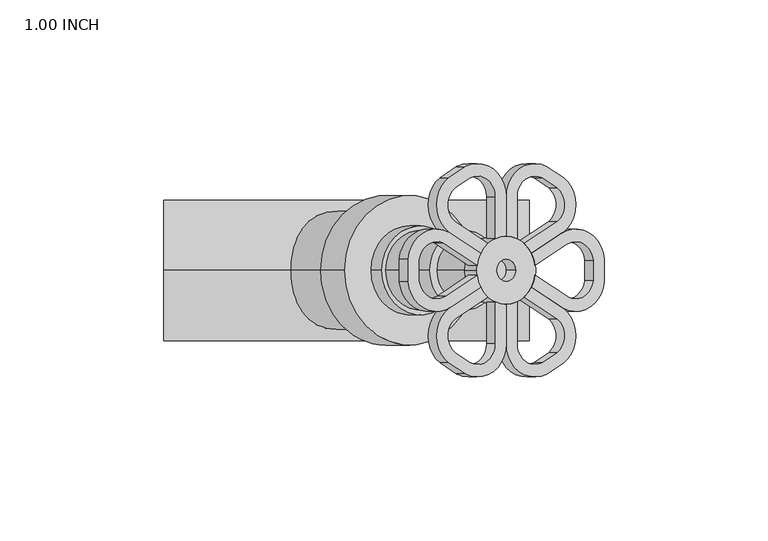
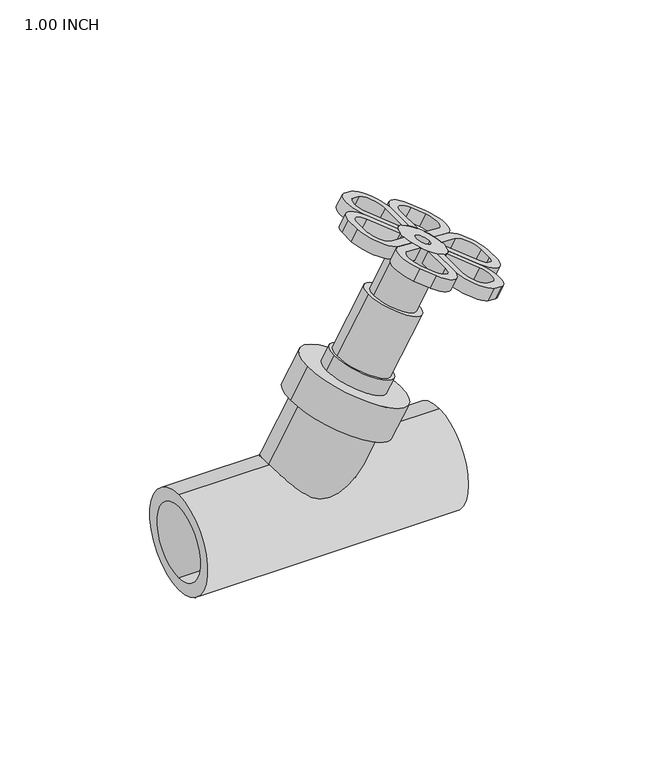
"""IFC4 building model written with IfcOpenShell, lengths in millimetres: valve geometry, Aquatherm - Inclined Valve without drain : 1.00 INCH."""

from ifc_helpers import new_model, si_unit, point, frame, frame_2d, origin, origin_2d, place, context, project, spatial, polyline, circle_curve, trimmed, segment, composite_curve, outline, extrude, source, transform, mapped, element, save
from ifc_brep_helpers import plane_surface, cylinder_surface, revolved_surface, advanced_brep


def valve_1_00_inch_de853e4a(model_context):
    return source(origin(), model_context, "Body", "SolidModel", [
        advanced_brep(
        [(123.3667275, 10.5951948, 86.0745316), (136.499744, 2.812243, 78.492181), (136.5198625, -4.0695455, 78.4805655), (124.1541595, -12.3087434, 85.6199075), (114.3647614, -5.7824779, 91.2718192), (115.4580816, -2.111949, 90.6405904), (125.6440611, -8.902602, 84.7597124), (133.2217492, -3.6900946, 80.3847322), (133.2377835, 2.4387005, 80.3754747), (125.0165059, 7.295638, 85.1220316), (115.4454846, 0.9149571, 90.6478633), (114.3371894, 4.5755028, 91.2877378), (126.0337275, 10.5951948, 90.6939111), (117.0041894, 4.5755028, 95.9071173), (118.1124846, 0.9149571, 95.2672428), (127.6835059, 7.295638, 89.7414111), (135.8832944, 2.4362397, 85.007261), (135.903563, -3.691799, 84.9955589), (128.3110611, -8.902602, 89.3790919), (118.1250816, -2.111949, 95.2599699), (117.0317614, -5.7824779, 95.8911987), (126.8211595, -12.3087434, 90.239287), (139.1720487, -4.0678412, 83.1084978), (139.1882331, 2.8147039, 83.0991537)],
        [
            (0, 1, circle_curve(frame((127.7586929, 1.8112639, 83.5388292), z_axis=(-0.49999999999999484, 0.0, -0.8660254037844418), x_axis=(0.4330127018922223, -0.866025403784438, -0.24999999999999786)), 10.1428098)),
            (1, 2, circle_curve(frame((106.5323937, -0.6194603, 95.7938387), z_axis=(-0.49999999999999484, 0.0, -0.8660254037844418), x_axis=(0.4330127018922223, -0.866025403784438, -0.24999999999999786)), 34.798)),
            (2, 3, circle_curve(frame((127.7643972, -3.0622214, 83.5355358), z_axis=(-0.49999999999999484, 0.0, -0.8660254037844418), x_axis=(0.4330127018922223, -0.866025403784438, -0.24999999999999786)), 10.1428098)),
            (3, 4),
            (4, 5, circle_curve(frame((106.5323937, -0.6194603, 95.7938387), z_axis=(0.49999999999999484, 0.0, 0.8660254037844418), x_axis=(0.41622412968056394, 0.8769321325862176, -0.2403071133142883)), 10.414)),
            (5, 6),
            (6, 7, circle_curve(frame((127.7643972, -3.0622214, 83.5355358), z_axis=(0.49999999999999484, 0.0, 0.8660254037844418), x_axis=(0.4330127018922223, -0.866025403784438, -0.24999999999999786)), 6.3328098)),
            (7, 8, circle_curve(frame((106.5323937, -0.6194603, 95.7938387), z_axis=(0.49999999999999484, 0.0, 0.8660254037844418), x_axis=(0.4330127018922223, -0.866025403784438, -0.24999999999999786)), 30.988)),
            (8, 9, circle_curve(frame((127.7586929, 1.8112639, 83.5388292), z_axis=(0.49999999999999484, 0.0, 0.8660254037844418), x_axis=(0.4330127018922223, -0.866025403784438, -0.24999999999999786)), 6.3328098)),
            (9, 10),
            (10, 11, circle_curve(frame((106.5266894, -0.6314972, 95.7971321), z_axis=(0.49999999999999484, 0.0, 0.8660254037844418), x_axis=(0.4330127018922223, -0.866025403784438, -0.24999999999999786)), 10.414)),
            (11, 0),
            (12, 13),
            (13, 14, circle_curve(frame((109.1936894, -0.6314972, 100.4165116), z_axis=(-0.49999999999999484, 0.0, -0.8660254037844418), x_axis=(0.4330127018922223, -0.866025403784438, -0.24999999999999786)), 10.414)),
            (14, 15),
            (15, 16, circle_curve(frame((130.4256929, 1.8112639, 88.1582087), z_axis=(-0.49999999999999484, 0.0, -0.8660254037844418), x_axis=(0.4330127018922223, -0.866025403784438, -0.24999999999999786)), 6.3328098)),
            (16, 17, circle_curve(frame((109.1993937, -0.6194603, 100.4132182), z_axis=(-0.49999999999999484, 0.0, -0.8660254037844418), x_axis=(0.4330127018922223, -0.866025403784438, -0.24999999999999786)), 30.988)),
            (17, 18, circle_curve(frame((130.4313972, -3.0622214, 88.1549153), z_axis=(-0.49999999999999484, 0.0, -0.8660254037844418), x_axis=(0.4330127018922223, -0.866025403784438, -0.24999999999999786)), 6.3328098)),
            (18, 19),
            (19, 20, circle_curve(frame((109.1993937, -0.6194603, 100.4132182), z_axis=(-0.49999999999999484, 0.0, -0.8660254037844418), x_axis=(0.41622412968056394, 0.8769321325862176, -0.2403071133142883)), 10.414)),
            (20, 21),
            (21, 22, circle_curve(frame((130.4313972, -3.0622214, 88.1549153), z_axis=(0.49999999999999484, 0.0, 0.8660254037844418), x_axis=(0.4330127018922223, -0.866025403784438, -0.24999999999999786)), 10.1428098)),
            (22, 23, circle_curve(frame((109.1993937, -0.6194603, 100.4132182), z_axis=(0.49999999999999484, 0.0, 0.8660254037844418), x_axis=(0.4330127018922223, -0.866025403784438, -0.24999999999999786)), 34.798)),
            (23, 12, circle_curve(frame((130.4256929, 1.8112639, 88.1582087), z_axis=(0.49999999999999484, 0.0, 0.8660254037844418), x_axis=(0.4330127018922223, -0.866025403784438, -0.24999999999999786)), 10.1428098)),
            (11, 13),
            (12, 0),
            (10, 14),
            (9, 15),
            (8, 16),
            (7, 17),
            (6, 18),
            (5, 19),
            (4, 20),
            (3, 21),
            (2, 22),
            (1, 23),
        ],
        [
            plane_surface(frame((132.1506584, -6.9726671, 81.0031267), z_axis=(-0.4999999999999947, 0.0, -0.8660254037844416), x_axis=(-0.7500000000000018, -0.5000000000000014, 0.43301270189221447))),
            plane_surface(frame((134.8176584, -6.9726671, 85.6225062), z_axis=(0.4999999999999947, 0.0, 0.8660254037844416), x_axis=(0.7500000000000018, 0.5000000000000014, -0.43301270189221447))),
            plane_surface(frame((114.3371894, 4.5755028, 91.2877378), z_axis=(-0.43301270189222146, 0.8660254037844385, 0.24999999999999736), x_axis=(0.49999999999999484, 0.0, 0.8660254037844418))),
            revolved_surface(polyline([(113.70308368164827, -9.650285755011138, 97.81301160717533), (111.0360836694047, -9.650285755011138, 93.19363208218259)]), (109.1936894, -0.6314972, 100.4165116), (0.49999999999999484, 0.0, 0.8660254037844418)),
            plane_surface(frame((125.0165059, 7.295638, 85.1220316), z_axis=(0.43301270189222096, -0.8660254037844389, -0.24999999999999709), x_axis=(0.49999999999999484, 0.0, 0.8660254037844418))),
            revolved_surface(polyline([(133.16787998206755, -3.6731102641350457, 86.57500625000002), (130.5008799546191, -3.6731102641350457, 81.95562669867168)]), (130.4256929, 1.8112639, 88.1582087), (0.49999999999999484, 0.0, 0.8660254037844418)),
            revolved_surface(polyline([(122.61759132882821, -27.455855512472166, 92.6662182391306), (119.95059130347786, -27.455855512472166, 88.04683869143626)]), (109.1993937, -0.6194603, 100.4132182), (0.49999999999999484, 0.0, 0.8660254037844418)),
            revolved_surface(polyline([(133.17358428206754, -8.546595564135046, 86.57171285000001), (130.5065842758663, -8.546595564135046, 81.95233333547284)]), (130.4313972, -3.0622214, 88.1549153), (0.49999999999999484, 0.0, 0.8660254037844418)),
            plane_surface(frame((115.4580816, -2.111949, 90.6405904), z_axis=(0.4330127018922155, 0.8660254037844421, -0.2499999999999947), x_axis=(0.49999999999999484, 0.0, 0.8660254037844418))),
            revolved_surface(polyline([(113.53395182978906, 8.51291092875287, 97.91065999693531), (110.86695178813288, 8.51291092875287, 93.29128042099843)]), (109.1993937, -0.6194603, 100.4132182), (0.49999999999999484, 0.0, 0.8660254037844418)),
            plane_surface(frame((124.1541595, -12.3087434, 85.6199075), z_axis=(-0.43301270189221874, -0.8660254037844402, 0.24999999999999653), x_axis=(0.49999999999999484, 0.0, 0.8660254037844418))),
            cylinder_surface(frame((130.4313972, -3.0622214, 88.1549153), z_axis=(-0.49999999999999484, 0.0, -0.8660254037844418), x_axis=(0.4330127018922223, -0.866025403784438, -0.24999999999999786)), 10.1428098),
            cylinder_surface(frame((109.1993937, -0.6194603, 100.4132182), z_axis=(-0.49999999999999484, 0.0, -0.8660254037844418), x_axis=(0.4330127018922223, -0.866025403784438, -0.24999999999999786)), 34.798),
            cylinder_surface(frame((130.4256929, 1.8112639, 88.1582087), z_axis=(-0.49999999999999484, 0.0, -0.8660254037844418), x_axis=(0.4330127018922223, -0.866025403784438, -0.24999999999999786)), 10.1428098),
        ],
        [
            (0, [[1, 2, 3, 4, 5, 6, 7, 8, 9, 10, 11, 12]]),
            (1, [[13, 14, 15, 16, 17, 18, 19, 20, 21, 22, 23, 24]]),
            (2, [[-12, 25, -13, 26]]),
            (3, [[-11, 27, -14, -25]]),
            (4, [[-10, 28, -15, -27]]),
            (5, [[-9, 29, -16, -28]]),
            (6, [[-8, 30, -17, -29]]),
            (7, [[-7, 31, -18, -30]]),
            (8, [[-6, 32, -19, -31]]),
            (9, [[-5, 33, -20, -32]]),
            (10, [[-4, 34, -21, -33]]),
            (11, [[-3, 35, -22, -34]]),
            (12, [[-2, 36, -23, -35]]),
            (13, [[-1, -26, -24, -36]]),
        ],
    ),
        advanced_brep(
        [(89.6866514, -11.8581892, 105.5197326), (76.5536349, -4.0752375, 113.1020832), (76.5335164, 2.8065511, 113.1136986), (88.8992194, 11.0457489, 105.9743567), (98.6886175, 4.5194835, 100.322445), (97.5952973, 0.8489546, 100.9536738), (87.4093178, 7.6396076, 106.8345518), (79.8316297, 2.4271002, 111.209532), (79.8155953, -3.7016949, 111.2187895), (88.036873, -8.5586324, 106.4722326), (97.6078943, -2.1779516, 100.9464008), (98.7161894, -5.8384972, 100.3065264), (92.3536514, -11.8581892, 110.1391121), (101.3831894, -5.8384972, 104.9259059), (100.2748943, -2.1779516, 105.5657804), (90.703873, -8.5586324, 111.0916121), (82.5040845, -3.6992341, 115.8257622), (82.4838159, 2.4288045, 115.8374643), (90.0763178, 7.6396076, 111.4539313), (100.2622973, 0.8489546, 105.5730533), (101.3556175, 4.5194835, 104.9418245), (91.5662194, 11.0457489, 110.5937362), (79.2153302, 2.8048467, 117.7245254), (79.1991458, -4.0776983, 117.7338695)],
        [
            (0, 1, circle_curve(frame((85.294686, -3.0742583, 108.055435), z_axis=(-0.49999999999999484, 0.0, -0.8660254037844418), x_axis=(-0.4330127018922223, 0.866025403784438, 0.24999999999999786)), 10.1428098)),
            (1, 2, circle_curve(frame((106.5209852, -0.6435341, 95.8004254), z_axis=(-0.49999999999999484, 0.0, -0.8660254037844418), x_axis=(-0.4330127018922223, 0.866025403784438, 0.24999999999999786)), 34.798)),
            (2, 3, circle_curve(frame((85.2889817, 1.7992269, 108.0587284), z_axis=(-0.49999999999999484, 0.0, -0.8660254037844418), x_axis=(-0.4330127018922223, 0.866025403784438, 0.24999999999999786)), 10.1428098)),
            (3, 4),
            (4, 5, circle_curve(frame((106.5209852, -0.6435341, 95.8004254), z_axis=(0.49999999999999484, 0.0, 0.8660254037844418), x_axis=(-0.41622412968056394, -0.8769321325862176, 0.2403071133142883)), 10.414)),
            (5, 6),
            (6, 7, circle_curve(frame((85.2889817, 1.7992269, 108.0587284), z_axis=(0.49999999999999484, 0.0, 0.8660254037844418), x_axis=(-0.4330127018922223, 0.866025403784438, 0.24999999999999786)), 6.3328098)),
            (7, 8, circle_curve(frame((106.5209852, -0.6435341, 95.8004254), z_axis=(0.49999999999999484, 0.0, 0.8660254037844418), x_axis=(-0.4330127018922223, 0.866025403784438, 0.24999999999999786)), 30.988)),
            (8, 9, circle_curve(frame((85.294686, -3.0742583, 108.055435), z_axis=(0.49999999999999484, 0.0, 0.8660254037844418), x_axis=(-0.4330127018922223, 0.866025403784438, 0.24999999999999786)), 6.3328098)),
            (9, 10),
            (10, 11, circle_curve(frame((106.5266894, -0.6314972, 95.7971321), z_axis=(0.49999999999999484, 0.0, 0.8660254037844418), x_axis=(-0.4330127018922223, 0.866025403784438, 0.24999999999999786)), 10.414)),
            (11, 0),
            (12, 13),
            (13, 14, circle_curve(frame((109.1936894, -0.6314972, 100.4165116), z_axis=(-0.49999999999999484, 0.0, -0.8660254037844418), x_axis=(-0.4330127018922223, 0.866025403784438, 0.24999999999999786)), 10.414)),
            (14, 15),
            (15, 16, circle_curve(frame((87.961686, -3.0742583, 112.6748145), z_axis=(-0.49999999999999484, 0.0, -0.8660254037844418), x_axis=(-0.4330127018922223, 0.866025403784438, 0.24999999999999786)), 6.3328098)),
            (16, 17, circle_curve(frame((109.1879852, -0.6435341, 100.4198049), z_axis=(-0.49999999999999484, 0.0, -0.8660254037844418), x_axis=(-0.4330127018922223, 0.866025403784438, 0.24999999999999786)), 30.988)),
            (17, 18, circle_curve(frame((87.9559817, 1.7992269, 112.6781079), z_axis=(-0.49999999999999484, 0.0, -0.8660254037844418), x_axis=(-0.4330127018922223, 0.866025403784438, 0.24999999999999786)), 6.3328098)),
            (18, 19),
            (19, 20, circle_curve(frame((109.1879852, -0.6435341, 100.4198049), z_axis=(-0.49999999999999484, 0.0, -0.8660254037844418), x_axis=(-0.41622412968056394, -0.8769321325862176, 0.2403071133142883)), 10.414)),
            (20, 21),
            (21, 22, circle_curve(frame((87.9559817, 1.7992269, 112.6781079), z_axis=(0.49999999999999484, 0.0, 0.8660254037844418), x_axis=(-0.4330127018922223, 0.866025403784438, 0.24999999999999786)), 10.1428098)),
            (22, 23, circle_curve(frame((109.1879852, -0.6435341, 100.4198049), z_axis=(0.49999999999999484, 0.0, 0.8660254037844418), x_axis=(-0.4330127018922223, 0.866025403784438, 0.24999999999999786)), 34.798)),
            (23, 12, circle_curve(frame((87.961686, -3.0742583, 112.6748145), z_axis=(0.49999999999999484, 0.0, 0.8660254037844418), x_axis=(-0.4330127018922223, 0.866025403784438, 0.24999999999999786)), 10.1428098)),
            (0, 12),
            (23, 1),
            (22, 2),
            (21, 3),
            (20, 4),
            (19, 5),
            (18, 6),
            (17, 7),
            (16, 8),
            (15, 9),
            (14, 10),
            (13, 11),
        ],
        [
            plane_surface(frame((80.9027205, 5.7096726, 110.5911375), z_axis=(-0.4999999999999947, 0.0, -0.8660254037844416), x_axis=(0.7500000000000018, 0.5000000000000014, -0.43301270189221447))),
            plane_surface(frame((83.5697205, 5.7096726, 115.210517), z_axis=(0.4999999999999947, 0.0, 0.8660254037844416), x_axis=(-0.7500000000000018, -0.5000000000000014, 0.43301270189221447))),
            cylinder_surface(frame((87.961686, -3.0742583, 112.6748145), z_axis=(-0.49999999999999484, 0.0, -0.8660254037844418), x_axis=(-0.4330127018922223, 0.866025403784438, 0.24999999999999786)), 10.1428098),
            cylinder_surface(frame((109.1879852, -0.6435341, 100.4198049), z_axis=(-0.49999999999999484, 0.0, -0.8660254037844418), x_axis=(-0.4330127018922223, 0.866025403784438, 0.24999999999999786)), 34.798),
            cylinder_surface(frame((87.9559817, 1.7992269, 112.6781079), z_axis=(-0.49999999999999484, 0.0, -0.8660254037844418), x_axis=(-0.4330127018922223, 0.866025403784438, 0.24999999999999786)), 10.1428098),
            plane_surface(frame((88.8992194, 11.0457489, 105.9743567), z_axis=(0.43301270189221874, 0.8660254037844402, -0.24999999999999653), x_axis=(0.49999999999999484, 0.0, 0.8660254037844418))),
            revolved_surface(polyline([(104.8534271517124, -9.77590532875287, 102.92236324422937), (102.1864271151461, -9.77590532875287, 98.30298367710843)]), (109.1879852, -0.6435341, 100.4198049), (0.49999999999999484, 0.0, 0.8660254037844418)),
            plane_surface(frame((97.5952973, 0.8489546, 100.9536738), z_axis=(-0.43301270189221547, -0.8660254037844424, 0.24999999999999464), x_axis=(0.49999999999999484, 0.0, 0.8660254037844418))),
            revolved_surface(polyline([(85.2137946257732, 7.283601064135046, 114.26131036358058), (82.5467945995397, 7.283601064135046, 109.64193081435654)]), (87.9559817, 1.7992269, 112.6781079), (0.49999999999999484, 0.0, 0.8660254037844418)),
            revolved_surface(polyline([(95.76978762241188, 26.192861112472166, 108.16680494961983), (93.10278759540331, 26.192861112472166, 103.54742539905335)]), (109.1879852, -0.6435341, 100.4198049), (0.49999999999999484, 0.0, 0.8660254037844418)),
            revolved_surface(polyline([(85.21949892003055, 2.410115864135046, 114.258016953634), (82.55249891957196, 2.410115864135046, 109.63863744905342)]), (87.961686, -3.0742583, 112.6748145), (0.49999999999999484, 0.0, 0.8660254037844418)),
            plane_surface(frame((88.036873, -8.5586324, 106.4722326), z_axis=(-0.43301270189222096, 0.8660254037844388, 0.24999999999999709), x_axis=(0.49999999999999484, 0.0, 0.8660254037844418))),
            revolved_surface(polyline([(104.68429514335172, 8.387291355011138, 103.02001163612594), (102.01729510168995, 8.387291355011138, 98.40063206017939)]), (109.1936894, -0.6314972, 100.4165116), (0.49999999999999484, 0.0, 0.8660254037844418)),
            plane_surface(frame((98.7161894, -5.8384972, 100.3065264), z_axis=(0.43301270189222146, -0.8660254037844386, -0.24999999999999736), x_axis=(0.49999999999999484, 0.0, 0.8660254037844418))),
        ],
        [
            (0, [[1, 2, 3, 4, 5, 6, 7, 8, 9, 10, 11, 12]]),
            (1, [[13, 14, 15, 16, 17, 18, 19, 20, 21, 22, 23, 24]]),
            (2, [[-1, 25, -24, 26]]),
            (3, [[-2, -26, -23, 27]]),
            (4, [[-3, -27, -22, 28]]),
            (5, [[-4, -28, -21, 29]]),
            (6, [[-5, -29, -20, 30]]),
            (7, [[-6, -30, -19, 31]]),
            (8, [[-7, -31, -18, 32]]),
            (9, [[-8, -32, -17, 33]]),
            (10, [[-9, -33, -16, 34]]),
            (11, [[-10, -34, -15, 35]]),
            (12, [[-11, -35, -14, 36]]),
            (13, [[-12, -36, -13, -25]]),
        ],
    ),
        advanced_brep(
        [(106.5266894, 21.8218868, 95.7971321), (106.5266894, 9.7825028, 95.7971321), (103.2271327, 9.0605251, 97.7021321), (103.2271327, 21.8218868, 97.7021321), (95.4826896, 27.5919762, 102.1733883), (90.8765264, 24.5482255, 104.832758), (90.764675, 14.350322, 104.8973354), (100.9506545, 7.559669, 99.0164574), (98.7444179, 4.6310844, 100.2902286), (88.9550198, 11.1573498, 105.9421403), (88.9602518, 27.6286901, 105.9391196), (94.1140684, 31.086147, 102.9635622), (109.1936894, 21.8218868, 100.4165116), (96.7899674, 31.0634274, 107.5778039), (91.6185667, 27.6426517, 110.5635135), (91.6220198, 11.1573498, 110.5615198), (101.4114179, 4.6310844, 104.9096081), (103.6176545, 7.559669, 103.6358369), (93.431675, 14.350322, 109.5167149), (93.5522115, 24.5342638, 109.4471231), (98.1407907, 27.6146957, 106.7979057), (105.8941327, 21.8218868, 102.3215116), (105.8941327, 9.0605251, 102.3215116), (109.1936894, 9.7825028, 100.4165116)],
        [
            (0, 1),
            (1, 2, circle_curve(frame((106.5266894, -0.6314972, 95.7971321), z_axis=(0.49999999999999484, 0.0, 0.8660254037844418), x_axis=(-0.8660254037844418, 0.0, 0.49999999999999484)), 10.414)),
            (2, 3),
            (3, 4, circle_curve(frame((97.7427585, 21.8218868, 100.868537), z_axis=(0.49999999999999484, 0.0, 0.8660254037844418), x_axis=(-0.8660254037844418, 0.0, 0.49999999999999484)), 6.3328098)),
            (4, 5, circle_curve(frame((106.532865, -0.6197745, 95.7935666), z_axis=(0.49999999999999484, 0.0, 0.8660254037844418), x_axis=(-0.8660254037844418, 0.0, 0.49999999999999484)), 30.988)),
            (5, 6, circle_curve(frame((94.0847925, 19.3908484, 102.9804647), z_axis=(0.49999999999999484, 0.0, 0.8660254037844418), x_axis=(-0.8660254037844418, 0.0, 0.49999999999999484)), 6.3328098)),
            (6, 7),
            (7, 8, circle_curve(frame((106.532865, -0.6197745, 95.7935666), z_axis=(0.4999999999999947, 0.0, 0.8660254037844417), x_axis=(0.4495870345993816, 0.8546901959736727, -0.2595691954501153)), 10.414)),
            (8, 9),
            (9, 10, circle_curve(frame((94.0847925, 19.3908484, 102.9804647), z_axis=(-0.49999999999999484, 0.0, -0.8660254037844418), x_axis=(-0.8660254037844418, 0.0, 0.49999999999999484)), 10.1428098)),
            (10, 11, circle_curve(frame((106.532865, -0.6197745, 95.7935666), z_axis=(-0.49999999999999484, 0.0, -0.8660254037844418), x_axis=(-0.8660254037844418, 0.0, 0.49999999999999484)), 34.798)),
            (11, 0, circle_curve(frame((97.7427585, 21.8218868, 100.868537), z_axis=(-0.49999999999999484, 0.0, -0.8660254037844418), x_axis=(-0.8660254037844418, 0.0, 0.49999999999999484)), 10.1428098)),
            (12, 13, circle_curve(frame((100.4097585, 21.8218868, 105.4879165), z_axis=(0.49999999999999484, 0.0, 0.8660254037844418), x_axis=(-0.8660254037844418, 0.0, 0.49999999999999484)), 10.1428098)),
            (13, 14, circle_curve(frame((109.199865, -0.6197745, 100.4129461), z_axis=(0.49999999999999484, 0.0, 0.8660254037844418), x_axis=(-0.8660254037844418, 0.0, 0.49999999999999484)), 34.798)),
            (14, 15, circle_curve(frame((96.7517925, 19.3908484, 107.5998442), z_axis=(0.49999999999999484, 0.0, 0.8660254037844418), x_axis=(-0.8660254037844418, 0.0, 0.49999999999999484)), 10.1428098)),
            (15, 16),
            (16, 17, circle_curve(frame((109.199865, -0.6197745, 100.4129461), z_axis=(-0.4999999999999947, 0.0, -0.8660254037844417), x_axis=(0.4495870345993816, 0.8546901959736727, -0.2595691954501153)), 10.414)),
            (17, 18),
            (18, 19, circle_curve(frame((96.7517925, 19.3908484, 107.5998442), z_axis=(-0.49999999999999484, 0.0, -0.8660254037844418), x_axis=(-0.8660254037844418, 0.0, 0.49999999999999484)), 6.3328098)),
            (19, 20, circle_curve(frame((109.199865, -0.6197745, 100.4129461), z_axis=(-0.49999999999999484, 0.0, -0.8660254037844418), x_axis=(-0.8660254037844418, 0.0, 0.49999999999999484)), 30.988)),
            (20, 21, circle_curve(frame((100.4097585, 21.8218868, 105.4879165), z_axis=(-0.49999999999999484, 0.0, -0.8660254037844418), x_axis=(-0.8660254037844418, 0.0, 0.49999999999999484)), 6.3328098)),
            (21, 22),
            (22, 23, circle_curve(frame((109.1936894, -0.6314972, 100.4165116), z_axis=(-0.49999999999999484, 0.0, -0.8660254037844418), x_axis=(-0.8660254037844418, 0.0, 0.49999999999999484)), 10.414)),
            (23, 12),
            (11, 13),
            (12, 0),
            (10, 14),
            (9, 15),
            (8, 16),
            (7, 17),
            (6, 18),
            (5, 19),
            (4, 20),
            (3, 21),
            (2, 22),
            (1, 23),
        ],
        [
            plane_surface(frame((106.5266894, 7.6235028, 95.7971321), z_axis=(-0.49999999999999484, 0.0, -0.8660254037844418), x_axis=(0.0, -1.0, 0.0))),
            plane_surface(frame((109.1936894, 7.6235028, 100.4165116), z_axis=(0.49999999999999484, 0.0, 0.8660254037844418), x_axis=(0.0, 1.0, 0.0))),
            cylinder_surface(frame((100.4097585, 21.8218868, 105.4879165), z_axis=(-0.49999999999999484, 0.0, -0.8660254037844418), x_axis=(-0.8660254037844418, 0.0, 0.49999999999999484)), 10.1428098),
            cylinder_surface(frame((109.199865, -0.6197745, 100.4129461), z_axis=(-0.49999999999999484, 0.0, -0.8660254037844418), x_axis=(-0.8660254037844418, 0.0, 0.49999999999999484)), 34.798),
            cylinder_surface(frame((96.7517925, 19.3908484, 107.5998442), z_axis=(-0.49999999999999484, 0.0, -0.8660254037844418), x_axis=(-0.8660254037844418, 0.0, 0.49999999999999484)), 10.1428098),
            plane_surface(frame((98.7444179, 4.6310844, 100.2902286), z_axis=(-0.433012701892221, -0.8660254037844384, 0.24999999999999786), x_axis=(0.49999999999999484, 0.0, 0.8660254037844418))),
            revolved_surface(polyline([(113.88186440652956, 8.280969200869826, 97.70979254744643), (111.21486436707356, 8.280969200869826, 93.09041297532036)]), (109.199865, -0.6197745, 100.4129461), (0.49999999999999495, 0.0, 0.866025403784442)),
            plane_surface(frame((90.764675, 14.350322, 104.8973354), z_axis=(0.4330127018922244, 0.8660254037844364, -0.2499999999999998), x_axis=(0.49999999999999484, 0.0, 0.8660254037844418))),
            revolved_surface(polyline([(91.26741833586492, 19.3908484, 110.76624909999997), (88.60041832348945, 19.3908484, 106.14686957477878)]), (96.7517925, 19.3908484, 107.5998442), (0.49999999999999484, 0.0, 0.8660254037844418)),
            revolved_surface(polyline([(82.36346982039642, -0.6197745, 115.9069461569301), (79.69646977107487, -0.6197745, 111.28756656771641)]), (109.199865, -0.6197745, 100.4129461), (0.49999999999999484, 0.0, 0.8660254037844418)),
            revolved_surface(polyline([(94.92538434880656, 21.8218868, 108.65432142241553), (92.258384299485, 21.8218868, 104.03494183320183)]), (100.4097585, 21.8218868, 105.4879165), (0.49999999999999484, 0.0, 0.8660254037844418)),
            plane_surface(frame((103.2271327, 9.0605251, 97.7021321), z_axis=(-0.8660254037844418, 0.0, 0.49999999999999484), x_axis=(0.49999999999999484, 0.0, 0.8660254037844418))),
            revolved_surface(polyline([(100.17490086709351, -0.6314972, 105.62351163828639), (97.50790084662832, -0.6314972, 101.00413209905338)]), (109.1936894, -0.6314972, 100.4165116), (0.49999999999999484, 0.0, 0.8660254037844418)),
            plane_surface(frame((106.5266894, 21.8218868, 95.7971321), z_axis=(0.8660254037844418, 0.0, -0.49999999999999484), x_axis=(0.49999999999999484, 0.0, 0.8660254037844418))),
        ],
        [
            (0, [[1, 2, 3, 4, 5, 6, 7, 8, 9, 10, 11, 12]]),
            (1, [[13, 14, 15, 16, 17, 18, 19, 20, 21, 22, 23, 24]]),
            (2, [[-12, 25, -13, 26]]),
            (3, [[-11, 27, -14, -25]]),
            (4, [[-10, 28, -15, -27]]),
            (5, [[-9, 29, -16, -28]]),
            (6, [[-8, 30, -17, -29]]),
            (7, [[-7, 31, -18, -30]]),
            (8, [[-6, 32, -19, -31]]),
            (9, [[-5, 33, -20, -32]]),
            (10, [[-4, 34, -21, -33]]),
            (11, [[-3, 35, -22, -34]]),
            (12, [[-2, 36, -23, -35]]),
            (13, [[-1, -26, -24, -36]]),
        ],
    ),
        advanced_brep(
        [(106.5266894, 21.8218868, 95.7971321), (118.9304115, 31.0634274, 88.6358398), (124.1018122, 27.6426517, 85.6501302), (124.0983591, 11.1573498, 85.6521239), (114.3089609, 4.6310844, 91.3040355), (112.1027244, 7.559669, 92.5778068), (122.2887039, 14.350322, 86.6969288), (122.1681674, 24.5342638, 86.7665206), (117.5795882, 27.6146957, 89.415738), (109.8262462, 21.8218868, 93.8921321), (109.8262462, 9.0605251, 93.8921321), (106.5266894, 9.7825028, 95.7971321), (109.1936894, 21.8218868, 100.4165116), (109.1936894, 9.7825028, 100.4165116), (112.4932462, 9.0605251, 98.5115116), (112.4932462, 21.8218868, 98.5115116), (120.2376892, 27.5919762, 94.0402553), (124.8438525, 24.5482255, 91.3808857), (124.9557039, 14.350322, 91.3163083), (114.7697244, 7.559669, 97.1971863), (116.9759609, 4.6310844, 95.923415), (126.7653591, 11.1573498, 90.2715034), (126.760127, 27.6286901, 90.2745241), (121.6063105, 31.086147, 93.2500815)],
        [
            (0, 1, circle_curve(frame((115.3106204, 21.8218868, 90.7257272), z_axis=(-0.49999999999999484, 0.0, -0.8660254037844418), x_axis=(0.8660254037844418, 0.0, -0.49999999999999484)), 10.1428098)),
            (1, 2, circle_curve(frame((106.5205139, -0.6197745, 95.8006976), z_axis=(-0.49999999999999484, 0.0, -0.8660254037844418), x_axis=(0.8660254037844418, 0.0, -0.49999999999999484)), 34.798)),
            (2, 3, circle_curve(frame((118.9685864, 19.3908484, 88.6137995), z_axis=(-0.49999999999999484, 0.0, -0.8660254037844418), x_axis=(0.8660254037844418, 0.0, -0.49999999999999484)), 10.1428098)),
            (3, 4),
            (4, 5, circle_curve(frame((106.5205139, -0.6197745, 95.8006976), z_axis=(0.4999999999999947, 0.0, 0.8660254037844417), x_axis=(-0.4495870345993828, 0.854690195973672, 0.2595691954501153)), 10.414)),
            (5, 6),
            (6, 7, circle_curve(frame((118.9685864, 19.3908484, 88.6137995), z_axis=(0.49999999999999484, 0.0, 0.8660254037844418), x_axis=(0.8660254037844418, 0.0, -0.49999999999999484)), 6.3328098)),
            (7, 8, circle_curve(frame((106.5205139, -0.6197745, 95.8006976), z_axis=(0.49999999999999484, 0.0, 0.8660254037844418), x_axis=(0.8660254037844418, 0.0, -0.49999999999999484)), 30.988)),
            (8, 9, circle_curve(frame((115.3106204, 21.8218868, 90.7257272), z_axis=(0.49999999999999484, 0.0, 0.8660254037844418), x_axis=(0.8660254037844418, 0.0, -0.49999999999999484)), 6.3328098)),
            (9, 10),
            (10, 11, circle_curve(frame((106.5266894, -0.6314972, 95.7971321), z_axis=(0.49999999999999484, 0.0, 0.8660254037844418), x_axis=(0.8660254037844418, 0.0, -0.49999999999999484)), 10.414)),
            (11, 0),
            (12, 13),
            (13, 14, circle_curve(frame((109.1936894, -0.6314972, 100.4165116), z_axis=(-0.49999999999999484, 0.0, -0.8660254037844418), x_axis=(0.8660254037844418, 0.0, -0.49999999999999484)), 10.414)),
            (14, 15),
            (15, 16, circle_curve(frame((117.9776204, 21.8218868, 95.3451067), z_axis=(-0.49999999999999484, 0.0, -0.8660254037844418), x_axis=(0.8660254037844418, 0.0, -0.49999999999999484)), 6.3328098)),
            (16, 17, circle_curve(frame((109.1875139, -0.6197745, 100.4200771), z_axis=(-0.49999999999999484, 0.0, -0.8660254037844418), x_axis=(0.8660254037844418, 0.0, -0.49999999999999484)), 30.988)),
            (17, 18, circle_curve(frame((121.6355864, 19.3908484, 93.233179), z_axis=(-0.49999999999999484, 0.0, -0.8660254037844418), x_axis=(0.8660254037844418, 0.0, -0.49999999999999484)), 6.3328098)),
            (18, 19),
            (19, 20, circle_curve(frame((109.1875139, -0.6197745, 100.4200771), z_axis=(-0.4999999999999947, 0.0, -0.8660254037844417), x_axis=(-0.4495870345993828, 0.854690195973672, 0.2595691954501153)), 10.414)),
            (20, 21),
            (21, 22, circle_curve(frame((121.6355864, 19.3908484, 93.233179), z_axis=(0.49999999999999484, 0.0, 0.8660254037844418), x_axis=(0.8660254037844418, 0.0, -0.49999999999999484)), 10.1428098)),
            (22, 23, circle_curve(frame((109.1875139, -0.6197745, 100.4200771), z_axis=(0.49999999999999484, 0.0, 0.8660254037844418), x_axis=(0.8660254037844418, 0.0, -0.49999999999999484)), 34.798)),
            (23, 12, circle_curve(frame((117.9776204, 21.8218868, 95.3451067), z_axis=(0.49999999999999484, 0.0, 0.8660254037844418), x_axis=(0.8660254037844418, 0.0, -0.49999999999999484)), 10.1428098)),
            (11, 13),
            (12, 0),
            (10, 14),
            (9, 15),
            (8, 16),
            (7, 17),
            (6, 18),
            (5, 19),
            (4, 20),
            (3, 21),
            (2, 22),
            (1, 23),
        ],
        [
            plane_surface(frame((124.0945513, 21.8218868, 85.6543223), z_axis=(-0.49999999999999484, 0.0, -0.8660254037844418), x_axis=(0.0, -1.0, 0.0))),
            plane_surface(frame((126.7615513, 21.8218868, 90.2737018), z_axis=(0.49999999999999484, 0.0, 0.8660254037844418), x_axis=(0.0, 1.0, 0.0))),
            plane_surface(frame((106.5266894, 9.7825028, 95.7971321), z_axis=(-0.8660254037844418, 0.0, 0.49999999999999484), x_axis=(0.49999999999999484, 0.0, 0.8660254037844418))),
            revolved_surface(polyline([(118.21247795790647, -0.6314972, 95.20951160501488), (115.54547795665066, -0.6314972, 90.59013209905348)]), (109.1936894, -0.6314972, 100.4165116), (0.49999999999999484, 0.0, 0.8660254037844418)),
            plane_surface(frame((109.8262462, 21.8218868, 93.8921321), z_axis=(0.8660254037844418, 0.0, -0.49999999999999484), x_axis=(0.49999999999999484, 0.0, 0.8660254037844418))),
            revolved_surface(polyline([(123.46199456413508, 21.8218868, 92.17870180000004), (120.79499455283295, 21.8218868, 87.5593222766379)]), (117.9776204, 21.8218868, 95.3451067), (0.49999999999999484, 0.0, 0.8660254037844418)),
            revolved_surface(polyline([(136.02390911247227, -0.6197745, 84.92607710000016), (133.35690908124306, -0.6197745, 80.30669754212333)]), (109.1875139, -0.6197745, 100.4200771), (0.49999999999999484, 0.0, 0.8660254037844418)),
            revolved_surface(polyline([(127.11996057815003, 19.3908484, 90.06677412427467), (124.45296056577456, 19.3908484, 85.44739459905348)]), (121.6355864, 19.3908484, 93.233179), (0.49999999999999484, 0.0, 0.8660254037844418)),
            plane_surface(frame((112.1027244, 7.559669, 92.5778068), z_axis=(-0.4330127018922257, 0.8660254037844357, 0.24999999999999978), x_axis=(0.49999999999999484, 0.0, 0.8660254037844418))),
            revolved_surface(polyline([(104.50551452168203, 8.28096920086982, 103.1232307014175), (101.83851446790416, 8.28096920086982, 98.50385110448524)]), (109.1875139, -0.6197745, 100.4200771), (0.49999999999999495, 0.0, 0.866025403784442)),
            plane_surface(frame((124.0983591, 11.1573498, 85.6521239), z_axis=(0.4330127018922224, -0.8660254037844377, -0.24999999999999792), x_axis=(0.49999999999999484, 0.0, 0.8660254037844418))),
            cylinder_surface(frame((121.6355864, 19.3908484, 93.233179), z_axis=(-0.49999999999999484, 0.0, -0.8660254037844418), x_axis=(0.8660254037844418, 0.0, -0.49999999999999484)), 10.1428098),
            cylinder_surface(frame((109.1875139, -0.6197745, 100.4200771), z_axis=(-0.49999999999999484, 0.0, -0.8660254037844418), x_axis=(0.8660254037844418, 0.0, -0.49999999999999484)), 34.798),
            cylinder_surface(frame((117.9776204, 21.8218868, 95.3451067), z_axis=(-0.49999999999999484, 0.0, -0.8660254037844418), x_axis=(0.8660254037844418, 0.0, -0.49999999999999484)), 10.1428098),
        ],
        [
            (0, [[1, 2, 3, 4, 5, 6, 7, 8, 9, 10, 11, 12]]),
            (1, [[13, 14, 15, 16, 17, 18, 19, 20, 21, 22, 23, 24]]),
            (2, [[-12, 25, -13, 26]]),
            (3, [[-11, 27, -14, -25]]),
            (4, [[-10, 28, -15, -27]]),
            (5, [[-9, 29, -16, -28]]),
            (6, [[-8, 30, -17, -29]]),
            (7, [[-7, 31, -18, -30]]),
            (8, [[-6, 32, -19, -31]]),
            (9, [[-5, 33, -20, -32]]),
            (10, [[-4, 34, -21, -33]]),
            (11, [[-3, 35, -22, -34]]),
            (12, [[-2, 36, -23, -35]]),
            (13, [[-1, -26, -24, -36]]),
        ],
    ),
        advanced_brep(
        [(106.5266894, -23.0848812, 95.7971321), (94.1229674, -32.3264219, 102.9584244), (88.9515667, -28.9056461, 105.9441339), (88.9550198, -12.4203442, 105.9421403), (98.7444179, -5.8940788, 100.2902286), (100.9506545, -8.8226635, 99.0164574), (90.764675, -15.6133165, 104.8973354), (90.8852115, -25.7972583, 104.8277436), (95.4737907, -28.8776902, 102.1785262), (103.2271327, -23.0848812, 97.7021321), (103.2271327, -10.3235195, 97.7021321), (106.5266894, -11.0454972, 95.7971321), (109.1936894, -23.0848812, 100.4165116), (109.1936894, -11.0454972, 100.4165116), (105.8941327, -10.3235195, 102.3215116), (105.8941327, -23.0848812, 102.3215116), (98.1496896, -28.8549706, 106.7927679), (93.5435264, -25.8112199, 109.4521375), (93.431675, -15.6133165, 109.5167149), (103.6176545, -8.8226635, 103.6358369), (101.4114179, -5.8940788, 104.9096081), (91.6220198, -12.4203442, 110.5615198), (91.6272518, -28.8916845, 110.5584991), (96.7810684, -32.3491414, 107.5829417)],
        [
            (0, 1, circle_curve(frame((97.7427585, -23.0848812, 100.868537), z_axis=(-0.49999999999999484, 0.0, -0.8660254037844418), x_axis=(-0.8660254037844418, 0.0, 0.49999999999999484)), 10.1428098)),
            (1, 2, circle_curve(frame((106.532865, -0.6432199, 95.7935666), z_axis=(-0.49999999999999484, 0.0, -0.8660254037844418), x_axis=(-0.8660254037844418, 0.0, 0.49999999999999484)), 34.798)),
            (2, 3, circle_curve(frame((94.0847925, -20.6538429, 102.9804647), z_axis=(-0.49999999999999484, 0.0, -0.8660254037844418), x_axis=(-0.8660254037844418, 0.0, 0.49999999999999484)), 10.1428098)),
            (3, 4),
            (4, 5, circle_curve(frame((106.532865, -0.6432199, 95.7935666), z_axis=(0.4999999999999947, 0.0, 0.8660254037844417), x_axis=(0.4495870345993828, -0.854690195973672, -0.2595691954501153)), 10.414)),
            (5, 6),
            (6, 7, circle_curve(frame((94.0847925, -20.6538429, 102.9804647), z_axis=(0.49999999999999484, 0.0, 0.8660254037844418), x_axis=(-0.8660254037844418, 0.0, 0.49999999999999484)), 6.3328098)),
            (7, 8, circle_curve(frame((106.532865, -0.6432199, 95.7935666), z_axis=(0.49999999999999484, 0.0, 0.8660254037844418), x_axis=(-0.8660254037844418, 0.0, 0.49999999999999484)), 30.988)),
            (8, 9, circle_curve(frame((97.7427585, -23.0848812, 100.868537), z_axis=(0.49999999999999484, 0.0, 0.8660254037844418), x_axis=(-0.8660254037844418, 0.0, 0.49999999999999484)), 6.3328098)),
            (9, 10),
            (10, 11, circle_curve(frame((106.5266894, -0.6314972, 95.7971321), z_axis=(0.49999999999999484, 0.0, 0.8660254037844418), x_axis=(-0.8660254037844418, 0.0, 0.49999999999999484)), 10.414)),
            (11, 0),
            (12, 13),
            (13, 14, circle_curve(frame((109.1936894, -0.6314972, 100.4165116), z_axis=(-0.49999999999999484, 0.0, -0.8660254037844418), x_axis=(-0.8660254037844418, 0.0, 0.49999999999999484)), 10.414)),
            (14, 15),
            (15, 16, circle_curve(frame((100.4097585, -23.0848812, 105.4879165), z_axis=(-0.49999999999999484, 0.0, -0.8660254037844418), x_axis=(-0.8660254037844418, 0.0, 0.49999999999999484)), 6.3328098)),
            (16, 17, circle_curve(frame((109.199865, -0.6432199, 100.4129461), z_axis=(-0.49999999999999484, 0.0, -0.8660254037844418), x_axis=(-0.8660254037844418, 0.0, 0.49999999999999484)), 30.988)),
            (17, 18, circle_curve(frame((96.7517925, -20.6538429, 107.5998442), z_axis=(-0.49999999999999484, 0.0, -0.8660254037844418), x_axis=(-0.8660254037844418, 0.0, 0.49999999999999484)), 6.3328098)),
            (18, 19),
            (19, 20, circle_curve(frame((109.199865, -0.6432199, 100.4129461), z_axis=(-0.4999999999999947, 0.0, -0.8660254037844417), x_axis=(0.4495870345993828, -0.854690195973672, -0.2595691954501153)), 10.414)),
            (20, 21),
            (21, 22, circle_curve(frame((96.7517925, -20.6538429, 107.5998442), z_axis=(0.49999999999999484, 0.0, 0.8660254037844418), x_axis=(-0.8660254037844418, 0.0, 0.49999999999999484)), 10.1428098)),
            (22, 23, circle_curve(frame((109.199865, -0.6432199, 100.4129461), z_axis=(0.49999999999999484, 0.0, 0.8660254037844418), x_axis=(-0.8660254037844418, 0.0, 0.49999999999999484)), 34.798)),
            (23, 12, circle_curve(frame((100.4097585, -23.0848812, 105.4879165), z_axis=(0.49999999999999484, 0.0, 0.8660254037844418), x_axis=(-0.8660254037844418, 0.0, 0.49999999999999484)), 10.1428098)),
            (0, 12),
            (23, 1),
            (22, 2),
            (21, 3),
            (20, 4),
            (19, 5),
            (18, 6),
            (17, 7),
            (16, 8),
            (15, 9),
            (14, 10),
            (13, 11),
        ],
        [
            plane_surface(frame((88.9588276, -23.0848812, 105.9399419), z_axis=(-0.49999999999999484, 0.0, -0.8660254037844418), x_axis=(0.0, 1.0, 0.0))),
            plane_surface(frame((91.6258276, -23.0848812, 110.5593214), z_axis=(0.49999999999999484, 0.0, 0.8660254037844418), x_axis=(0.0, -1.0, 0.0))),
            cylinder_surface(frame((100.4097585, -23.0848812, 105.4879165), z_axis=(-0.49999999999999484, 0.0, -0.8660254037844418), x_axis=(-0.8660254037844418, 0.0, 0.49999999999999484)), 10.1428098),
            cylinder_surface(frame((109.199865, -0.6432199, 100.4129461), z_axis=(-0.49999999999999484, 0.0, -0.8660254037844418), x_axis=(-0.8660254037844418, 0.0, 0.49999999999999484)), 34.798),
            cylinder_surface(frame((96.7517925, -20.6538429, 107.5998442), z_axis=(-0.49999999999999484, 0.0, -0.8660254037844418), x_axis=(-0.8660254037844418, 0.0, 0.49999999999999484)), 10.1428098),
            plane_surface(frame((88.9550198, -12.4203442, 105.9421403), z_axis=(-0.4330127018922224, 0.8660254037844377, 0.24999999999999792), x_axis=(0.49999999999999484, 0.0, 0.8660254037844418))),
            revolved_surface(polyline([(113.88186440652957, -9.54396360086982, 97.70979254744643), (111.21486436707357, -9.54396360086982, 93.09041297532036)]), (109.199865, -0.6432199, 100.4129461), (0.49999999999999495, 0.0, 0.866025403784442)),
            plane_surface(frame((100.9506545, -8.8226635, 99.0164574), z_axis=(0.4330127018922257, -0.8660254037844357, -0.24999999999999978), x_axis=(0.49999999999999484, 0.0, 0.8660254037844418))),
            revolved_surface(polyline([(91.26741833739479, -20.6538429, 110.76624910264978), (88.60041831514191, -20.6538429, 106.14686956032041)]), (96.7517925, -20.6538429, 107.5998442), (0.49999999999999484, 0.0, 0.8660254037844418)),
            revolved_surface(polyline([(82.36346982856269, -0.6432199, 115.9069461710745), (79.69646978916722, -0.6432199, 111.28756659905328)]), (109.199865, -0.6432199, 100.4129461), (0.49999999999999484, 0.0, 0.8660254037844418)),
            revolved_surface(polyline([(94.92538434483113, -23.0848812, 108.6543214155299), (92.25838433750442, -23.0848812, 104.0349418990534)]), (100.4097585, -23.0848812, 105.4879165), (0.49999999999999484, 0.0, 0.8660254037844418)),
            plane_surface(frame((103.2271327, -23.0848812, 97.7021321), z_axis=(-0.8660254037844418, 0.0, 0.49999999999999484), x_axis=(0.49999999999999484, 0.0, 0.8660254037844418))),
            revolved_surface(polyline([(100.17490086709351, -0.6314972, 105.62351163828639), (97.50790084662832, -0.6314972, 101.00413209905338)]), (109.1936894, -0.6314972, 100.4165116), (0.49999999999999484, 0.0, 0.8660254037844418)),
            plane_surface(frame((106.5266894, -11.0454972, 95.7971321), z_axis=(0.8660254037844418, 0.0, -0.49999999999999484), x_axis=(0.49999999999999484, 0.0, 0.8660254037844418))),
        ],
        [
            (0, [[1, 2, 3, 4, 5, 6, 7, 8, 9, 10, 11, 12]]),
            (1, [[13, 14, 15, 16, 17, 18, 19, 20, 21, 22, 23, 24]]),
            (2, [[-1, 25, -24, 26]]),
            (3, [[-2, -26, -23, 27]]),
            (4, [[-3, -27, -22, 28]]),
            (5, [[-4, -28, -21, 29]]),
            (6, [[-5, -29, -20, 30]]),
            (7, [[-6, -30, -19, 31]]),
            (8, [[-7, -31, -18, 32]]),
            (9, [[-8, -32, -17, 33]]),
            (10, [[-9, -33, -16, 34]]),
            (11, [[-10, -34, -15, 35]]),
            (12, [[-11, -35, -14, 36]]),
            (13, [[-12, -36, -13, -25]]),
        ],
    ),
        advanced_brep(
        [(106.5266894, -23.0848812, 95.7971321), (106.5266894, -11.0454972, 95.7971321), (109.8262462, -10.3235195, 93.8921321), (109.8262462, -23.0848812, 93.8921321), (117.5706892, -28.8549706, 89.4208758), (122.1768525, -25.8112199, 86.7615062), (122.2887039, -15.6133165, 86.6969288), (112.1027244, -8.8226635, 92.5778068), (114.3089609, -5.8940788, 91.3040355), (124.0983591, -12.4203442, 85.6521239), (124.093127, -28.8916845, 85.6551446), (118.9393105, -32.3491414, 88.630702), (109.1936894, -23.0848812, 100.4165116), (121.5974115, -32.3264219, 93.2552193), (126.7688122, -28.9056461, 90.2695097), (126.7653591, -12.4203442, 90.2715034), (116.9759609, -5.8940788, 95.923415), (114.7697244, -8.8226635, 97.1971863), (124.9557039, -15.6133165, 91.3163083), (124.8351674, -25.7972583, 91.3859001), (120.2465882, -28.8776902, 94.0351175), (112.4932462, -23.0848812, 98.5115116), (112.4932462, -10.3235195, 98.5115116), (109.1936894, -11.0454972, 100.4165116)],
        [
            (0, 1),
            (1, 2, circle_curve(frame((106.5266894, -0.6314972, 95.7971321), z_axis=(0.49999999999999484, 0.0, 0.8660254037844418), x_axis=(0.8660254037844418, 0.0, -0.49999999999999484)), 10.414)),
            (2, 3),
            (3, 4, circle_curve(frame((115.3106204, -23.0848812, 90.7257272), z_axis=(0.49999999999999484, 0.0, 0.8660254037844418), x_axis=(0.8660254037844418, 0.0, -0.49999999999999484)), 6.3328098)),
            (4, 5, circle_curve(frame((106.5205139, -0.6432199, 95.8006976), z_axis=(0.49999999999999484, 0.0, 0.8660254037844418), x_axis=(0.8660254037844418, 0.0, -0.49999999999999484)), 30.988)),
            (5, 6, circle_curve(frame((118.9685864, -20.6538429, 88.6137995), z_axis=(0.49999999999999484, 0.0, 0.8660254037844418), x_axis=(0.8660254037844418, 0.0, -0.49999999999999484)), 6.3328098)),
            (6, 7),
            (7, 8, circle_curve(frame((106.5205139, -0.6432199, 95.8006976), z_axis=(0.4999999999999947, 0.0, 0.8660254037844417), x_axis=(-0.4495870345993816, -0.8546901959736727, 0.2595691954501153)), 10.414)),
            (8, 9),
            (9, 10, circle_curve(frame((118.9685864, -20.6538429, 88.6137995), z_axis=(-0.49999999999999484, 0.0, -0.8660254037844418), x_axis=(0.8660254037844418, 0.0, -0.49999999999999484)), 10.1428098)),
            (10, 11, circle_curve(frame((106.5205139, -0.6432199, 95.8006976), z_axis=(-0.49999999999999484, 0.0, -0.8660254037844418), x_axis=(0.8660254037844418, 0.0, -0.49999999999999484)), 34.798)),
            (11, 0, circle_curve(frame((115.3106204, -23.0848812, 90.7257272), z_axis=(-0.49999999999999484, 0.0, -0.8660254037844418), x_axis=(0.8660254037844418, 0.0, -0.49999999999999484)), 10.1428098)),
            (12, 13, circle_curve(frame((117.9776204, -23.0848812, 95.3451067), z_axis=(0.49999999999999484, 0.0, 0.8660254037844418), x_axis=(0.8660254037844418, 0.0, -0.49999999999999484)), 10.1428098)),
            (13, 14, circle_curve(frame((109.1875139, -0.6432199, 100.4200771), z_axis=(0.49999999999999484, 0.0, 0.8660254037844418), x_axis=(0.8660254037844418, 0.0, -0.49999999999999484)), 34.798)),
            (14, 15, circle_curve(frame((121.6355864, -20.6538429, 93.233179), z_axis=(0.49999999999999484, 0.0, 0.8660254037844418), x_axis=(0.8660254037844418, 0.0, -0.49999999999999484)), 10.1428098)),
            (15, 16),
            (16, 17, circle_curve(frame((109.1875139, -0.6432199, 100.4200771), z_axis=(-0.4999999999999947, 0.0, -0.8660254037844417), x_axis=(-0.4495870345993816, -0.8546901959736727, 0.2595691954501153)), 10.414)),
            (17, 18),
            (18, 19, circle_curve(frame((121.6355864, -20.6538429, 93.233179), z_axis=(-0.49999999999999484, 0.0, -0.8660254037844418), x_axis=(0.8660254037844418, 0.0, -0.49999999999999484)), 6.3328098)),
            (19, 20, circle_curve(frame((109.1875139, -0.6432199, 100.4200771), z_axis=(-0.49999999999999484, 0.0, -0.8660254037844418), x_axis=(0.8660254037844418, 0.0, -0.49999999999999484)), 30.988)),
            (20, 21, circle_curve(frame((117.9776204, -23.0848812, 95.3451067), z_axis=(-0.49999999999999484, 0.0, -0.8660254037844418), x_axis=(0.8660254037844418, 0.0, -0.49999999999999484)), 6.3328098)),
            (21, 22),
            (22, 23, circle_curve(frame((109.1936894, -0.6314972, 100.4165116), z_axis=(-0.49999999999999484, 0.0, -0.8660254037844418), x_axis=(0.8660254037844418, 0.0, -0.49999999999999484)), 10.414)),
            (23, 12),
            (0, 12),
            (23, 1),
            (22, 2),
            (21, 3),
            (20, 4),
            (19, 5),
            (18, 6),
            (17, 7),
            (16, 8),
            (15, 9),
            (14, 10),
            (13, 11),
        ],
        [
            plane_surface(frame((106.5266894, -8.8864972, 95.7971321), z_axis=(-0.49999999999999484, 0.0, -0.8660254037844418), x_axis=(0.0, 1.0, 0.0))),
            plane_surface(frame((109.1936894, -8.8864972, 100.4165116), z_axis=(0.49999999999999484, 0.0, 0.8660254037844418), x_axis=(0.0, -1.0, 0.0))),
            plane_surface(frame((106.5266894, -23.0848812, 95.7971321), z_axis=(-0.8660254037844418, 0.0, 0.49999999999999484), x_axis=(0.49999999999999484, 0.0, 0.8660254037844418))),
            revolved_surface(polyline([(118.21247795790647, -0.6314972, 95.20951160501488), (115.54547795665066, -0.6314972, 90.59013209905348)]), (109.1936894, -0.6314972, 100.4165116), (0.49999999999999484, 0.0, 0.8660254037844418)),
            plane_surface(frame((109.8262462, -10.3235195, 93.8921321), z_axis=(0.8660254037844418, 0.0, -0.49999999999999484), x_axis=(0.49999999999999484, 0.0, 0.8660254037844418))),
            revolved_surface(polyline([(123.46199456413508, -23.0848812, 92.17870180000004), (120.79499453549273, -23.0848812, 87.55932224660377)]), (117.9776204, -23.0848812, 95.3451067), (0.49999999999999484, 0.0, 0.8660254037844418)),
            revolved_surface(polyline([(136.02390911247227, -0.6432199, 84.92607710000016), (133.35690906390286, -0.6432199, 80.30669751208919)]), (109.1875139, -0.6432199, 100.4200771), (0.49999999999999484, 0.0, 0.8660254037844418)),
            revolved_surface(polyline([(127.11996058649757, -20.6538429, 90.06677413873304), (124.4529605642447, -20.6538429, 85.44739459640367)]), (121.6355864, -20.6538429, 93.233179), (0.49999999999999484, 0.0, 0.8660254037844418)),
            plane_surface(frame((122.2887039, -15.6133165, 86.6969288), z_axis=(-0.4330127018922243, -0.8660254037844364, 0.24999999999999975), x_axis=(0.49999999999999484, 0.0, 0.8660254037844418))),
            revolved_surface(polyline([(104.50551452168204, -9.543963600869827, 103.1232307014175), (101.83851446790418, -9.543963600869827, 98.50385110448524)]), (109.1875139, -0.6432199, 100.4200771), (0.49999999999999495, 0.0, 0.866025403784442)),
            plane_surface(frame((114.3089609, -5.8940788, 91.3040355), z_axis=(0.43301270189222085, 0.8660254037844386, -0.24999999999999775), x_axis=(0.49999999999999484, 0.0, 0.8660254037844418))),
            cylinder_surface(frame((121.6355864, -20.6538429, 93.233179), z_axis=(-0.49999999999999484, 0.0, -0.8660254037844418), x_axis=(0.8660254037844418, 0.0, -0.49999999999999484)), 10.1428098),
            cylinder_surface(frame((109.1875139, -0.6432199, 100.4200771), z_axis=(-0.49999999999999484, 0.0, -0.8660254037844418), x_axis=(0.8660254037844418, 0.0, -0.49999999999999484)), 34.798),
            cylinder_surface(frame((117.9776204, -23.0848812, 95.3451067), z_axis=(-0.49999999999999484, 0.0, -0.8660254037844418), x_axis=(0.8660254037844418, 0.0, -0.49999999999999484)), 10.1428098),
        ],
        [
            (0, [[1, 2, 3, 4, 5, 6, 7, 8, 9, 10, 11, 12]]),
            (1, [[13, 14, 15, 16, 17, 18, 19, 20, 21, 22, 23, 24]]),
            (2, [[-1, 25, -24, 26]]),
            (3, [[-2, -26, -23, 27]]),
            (4, [[-3, -27, -22, 28]]),
            (5, [[-4, -28, -21, 29]]),
            (6, [[-5, -29, -20, 30]]),
            (7, [[-6, -30, -19, 31]]),
            (8, [[-7, -31, -18, 32]]),
            (9, [[-8, -32, -17, 33]]),
            (10, [[-9, -33, -16, 34]]),
            (11, [[-10, -34, -15, 35]]),
            (12, [[-11, -35, -14, 36]]),
            (13, [[-12, -36, -13, -25]]),
        ],
    ),
        extrude(outline(composite_curve([segment(trimmed(circle_curve(frame_2d((0.0, -10.414)), 10.414), [point((0.0, -20.828))], [point((0.0, 0.0))], False, "CARTESIAN"), True, "CONTINUOUS"), segment(trimmed(circle_curve(frame_2d((0.0, -10.414)), 10.414), [point((0.0, 0.0))], [point((0.0, -20.828))], False, "CARTESIAN"), True, "CONTINUOUS")], self_intersect=False), holes=[composite_curve([segment(trimmed(circle_curve(frame_2d((0.0, -10.414)), 3.302), [point((0.0, -13.716))], [point((0.0, -7.112))], True, "CARTESIAN"), True, "CONTINUOUS"), segment(trimmed(circle_curve(frame_2d((0.0, -10.414)), 3.302), [point((0.0, -7.112))], [point((0.0, -13.716))], True, "CARTESIAN"), True, "CONTINUOUS")], self_intersect=False)]), frame((114.529478, -0.6314972, 88.8303685), z_axis=(0.49999999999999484, 0.0, 0.8660254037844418), x_axis=(0.0, -1.0, 0.0)), (0.0, 0.0, 1.0), 7.366),
        extrude(outline(composite_curve([segment(trimmed(circle_curve(origin_2d(), 9.652), [point((0.0, 9.652))], [point((0.0, -9.652))], False, "CARTESIAN"), True, "CONTINUOUS"), segment(trimmed(circle_curve(origin_2d(), 9.652), [point((0.0, -9.652))], [point((0.0, 9.652))], False, "CARTESIAN"), True, "CONTINUOUS")], self_intersect=False)), frame((96.4301894, -0.6314972, 77.8695402), z_axis=(0.49999999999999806, 0.0, 0.8660254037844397), x_axis=(0.0, -1.0, 0.0)), (0.0, 0.0, 1.0), 20.574),
        extrude(outline(composite_curve([segment(trimmed(circle_curve(origin_2d(), 12.192), [point((0.0, 12.1920001))], [point((0.0, -12.192))], False, "CARTESIAN"), True, "CONTINUOUS"), segment(trimmed(circle_curve(origin_2d(), 12.192), [point((0.0, -12.192))], [point((0.0, 12.1920001))], False, "CARTESIAN"), True, "CONTINUOUS")], self_intersect=False)), frame((82.9681894, -0.6314972, 54.5526722), z_axis=(0.49999999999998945, 0.0, 0.8660254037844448), x_axis=(0.0, -1.0, 0.0)), (0.0, 0.0, 1.0), 26.924),
        extrude(outline(composite_curve([segment(trimmed(circle_curve(origin_2d(), 13.589), [point((0.0, 13.5890001))], [point((0.0, -13.589))], False, "CARTESIAN"), True, "CONTINUOUS"), segment(trimmed(circle_curve(origin_2d(), 13.589), [point((0.0, -13.589))], [point((0.0, 13.5890001))], False, "CARTESIAN"), True, "CONTINUOUS")], self_intersect=False)), frame((79.6661894, -0.6314972, 48.8334405), z_axis=(0.49999999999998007, 0.0, 0.8660254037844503), x_axis=(0.0, -1.0, 0.0)), (0.0, 0.0, 1.0), 6.604),
        extrude(outline(composite_curve([segment(trimmed(circle_curve(origin_2d(), 22.86), [point((0.0, 22.8600001))], [point((0.0, -22.86))], False, "CARTESIAN"), True, "CONTINUOUS"), segment(trimmed(circle_curve(origin_2d(), 22.86), [point((0.0, -22.86))], [point((0.0, 22.8600001))], False, "CARTESIAN"), True, "CONTINUOUS")], self_intersect=False)), frame((72.3001894, -0.6314972, 36.0751542), z_axis=(0.49999999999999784, 0.0, 0.8660254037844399), x_axis=(0.0, -1.0, 0.0)), (0.0, 0.0, 1.0), 14.732),
        extrude(outline(composite_curve([segment(trimmed(circle_curve(frame_2d((-0.6314972, 0.0)), 21.463), [point((-0.6314972, 21.463))], [point((-0.6314972, -21.463))], False, "CARTESIAN"), True, "CONTINUOUS"), segment(trimmed(circle_curve(frame_2d((-0.6314972, 0.0)), 21.463), [point((-0.6314972, -21.463))], [point((-0.6314972, 21.463))], False, "CARTESIAN"), True, "CONTINUOUS")], self_intersect=False), holes=[composite_curve([segment(trimmed(circle_curve(frame_2d((-0.6314972, 0.0)), 16.002), [point((-0.6314972, 16.002))], [point((-0.6314972, -16.002))], True, "CARTESIAN"), True, "CONTINUOUS"), segment(trimmed(circle_curve(frame_2d((-0.6314972, 0.0)), 16.002), [point((-0.6314972, -16.002))], [point((-0.6314972, 16.002))], True, "CARTESIAN"), True, "CONTINUOUS")], self_intersect=False)]), frame((4.4821894, 0.0, 0.0), z_axis=(1.0, 0.0, 0.0), x_axis=(0.0, 1.0, 0.0)), (0.0, 0.0, 1.0), 111.76),
        extrude(outline(composite_curve([segment(trimmed(circle_curve(origin_2d(), 18.034), [point((0.0, 18.0340001))], [point((0.0, -18.034))], False, "CARTESIAN"), True, "CONTINUOUS"), segment(trimmed(circle_curve(origin_2d(), 18.034), [point((0.0, -18.034))], [point((0.0, 18.0340001))], False, "CARTESIAN"), True, "CONTINUOUS")], self_intersect=False)), frame((51.4721894, -0.6314972, 0.0), z_axis=(0.49999999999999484, 0.0, 0.8660254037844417), x_axis=(0.0, -1.0, 0.0)), (0.0, 0.0, 1.0), 41.656),
    ])


if __name__ == "__main__":
    model = new_model("IFC4")
    model_context = context("Model", 3, world=origin())
    ifc_project = project(units=[si_unit("LENGTHUNIT", "METRE", prefix="MILLI")], contexts=[model_context])
    site = spatial("IfcSite", under=ifc_project)
    building = spatial("IfcBuilding", under=site)
    placement = place(None, origin())
    valve_1_00_inch_shape = valve_1_00_inch_de853e4a(model_context)
    element("IfcValve", 1, ObjectType="Aquatherm - Inclined Valve without drain : 1.00 INCH", at=placement, inside=building, context=model_context, shape_type="MappedRepresentation", body=[
        mapped(valve_1_00_inch_shape, transform((0.0, 0.0, 0.0), x_axis=(1.0, 0.0, 0.0), y_axis=(0.0, 1.0, 0.0), z_axis=(0.0, 0.0, 1.0))),
    ])
    save(model, "model.ifc")
